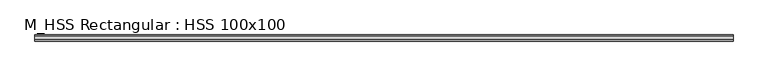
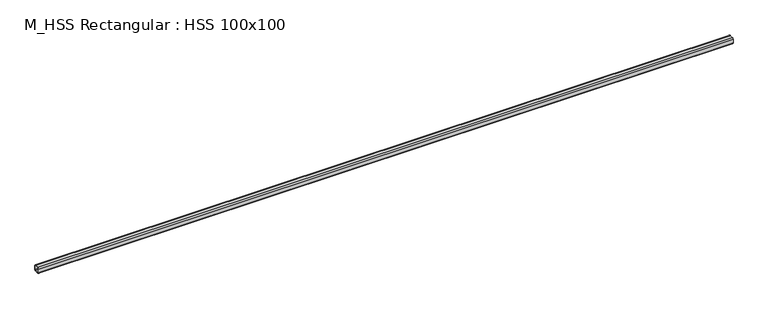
"""IFC4 building model written with IfcOpenShell, lengths in millimetres: beam geometry, M_HSS Rectangular : HSS 100x100."""

from ifc_helpers import new_model, si_unit, point, frame, frame_2d, origin, place, context, project, spatial, polyline, circle_curve, trimmed, segment, composite_curve, outline, extrude, source, transform, mapped, element, save


def m_hss_rectangular_hss_100x100_a3211d21(model_context):
    return source(origin(), model_context, "Body", "SweptSolid", [
        extrude(outline(composite_curve([segment(trimmed(circle_curve(frame_2d((-30.94, 30.94)), 19.06), [point((-50.0, 30.94))], [point((-30.94, 50.0))], False, "CARTESIAN"), True, "CONTINUOUS"), segment(polyline([(-30.94, 50.0), (30.94, 50.0)]), True, "CONTINUOUS"), segment(trimmed(circle_curve(frame_2d((30.94, 30.94)), 19.06), [point((30.94, 50.0))], [point((50.0, 30.94))], False, "CARTESIAN"), True, "CONTINUOUS"), segment(polyline([(50.0, 30.94), (50.0, -30.94)]), True, "CONTINUOUS"), segment(trimmed(circle_curve(frame_2d((30.94, -30.94)), 19.06), [point((50.0, -30.94))], [point((30.94, -50.0))], False, "CARTESIAN"), True, "CONTINUOUS"), segment(polyline([(30.94, -50.0), (-30.94, -50.0)]), True, "CONTINUOUS"), segment(trimmed(circle_curve(frame_2d((-30.94, -30.94)), 19.06), [point((-30.94, -50.0))], [point((-50.0, -30.94))], False, "CARTESIAN"), True, "CONTINUOUS"), segment(polyline([(-50.0, -30.94), (-50.0, 30.94)]), True, "CONTINUOUS")], self_intersect=False), holes=[composite_curve([segment(polyline([(30.94, 40.47), (-30.94, 40.47)]), True, "CONTINUOUS"), segment(trimmed(circle_curve(frame_2d((-30.94, 30.94)), 9.53), [point((-30.94, 40.47))], [point((-40.47, 30.94))], True, "CARTESIAN"), True, "CONTINUOUS"), segment(polyline([(-40.47, 30.94), (-40.47, -30.94)]), True, "CONTINUOUS"), segment(trimmed(circle_curve(frame_2d((-30.94, -30.94)), 9.53), [point((-40.47, -30.94))], [point((-30.94, -40.47))], True, "CARTESIAN"), True, "CONTINUOUS"), segment(polyline([(-30.94, -40.47), (30.94, -40.47)]), True, "CONTINUOUS"), segment(trimmed(circle_curve(frame_2d((30.94, -30.94)), 9.53), [point((30.94, -40.47))], [point((40.47, -30.94))], True, "CARTESIAN"), True, "CONTINUOUS"), segment(polyline([(40.47, -30.94), (40.47, 30.94)]), True, "CONTINUOUS"), segment(trimmed(circle_curve(frame_2d((30.94, 30.94)), 9.53), [point((40.47, 30.94))], [point((30.94, 40.47))], True, "CARTESIAN"), True, "CONTINUOUS")], self_intersect=False)]), frame((-5687.35, 0.0, 0.0), z_axis=(1.0, 0.0, 0.0), x_axis=(0.0, 1.0, 0.0)), (0.0, 0.0, 1.0), 11412.4),
    ])


if __name__ == "__main__":
    model = new_model("IFC4")
    model_context = context("Model", 3, world=origin())
    ifc_project = project(units=[si_unit("LENGTHUNIT", "METRE", prefix="MILLI")], contexts=[model_context])
    site = spatial("IfcSite", under=ifc_project)
    building = spatial("IfcBuilding", under=site)
    placement = place(None, origin())
    m_hss_rectangular_hss_100x100_shape = m_hss_rectangular_hss_100x100_a3211d21(model_context)
    element("IfcBeam", 1, ObjectType="M_HSS Rectangular : HSS 100x100", at=placement, inside=building, context=model_context, shape_type="MappedRepresentation", body=[
        mapped(m_hss_rectangular_hss_100x100_shape, transform((0.0, 0.0, 0.0), x_axis=(1.0, 0.0, 0.0), y_axis=(0.0, 1.0, 0.0), z_axis=(0.0, 0.0, 1.0))),
    ])
    save(model, "model.ifc")
